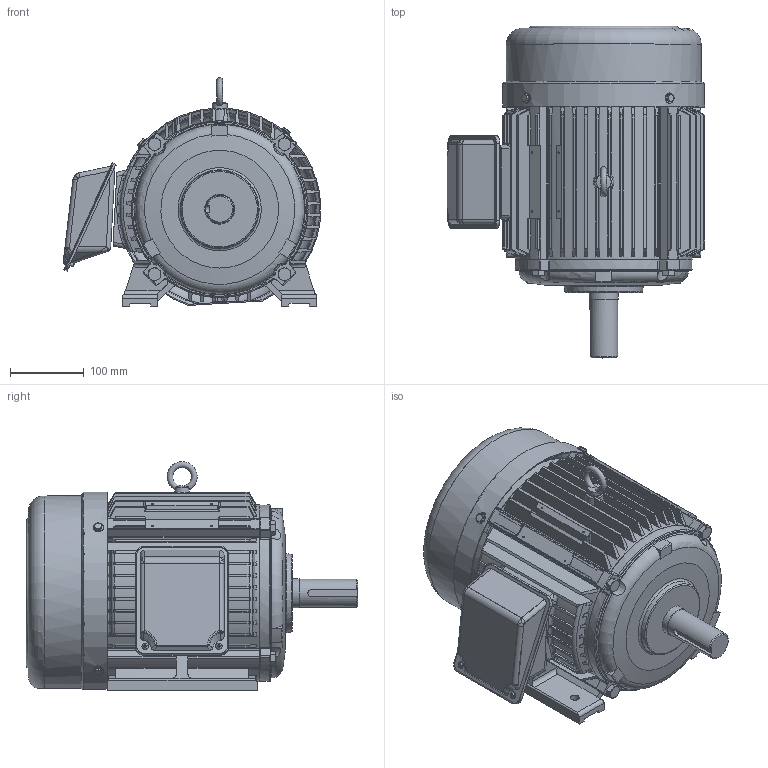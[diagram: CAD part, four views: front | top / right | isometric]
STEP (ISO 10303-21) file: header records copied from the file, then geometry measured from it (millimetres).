
FILE_DESCRIPTION(/* description */ ('Unknown'),/* implementation_level */ '2;1');
FILE_NAME(/* name */ '1-SMA-39272_외형도(228DIA)',/* time_stamp */ '2026-07-24T08:27:30+09:00',/* author */ ('Unknown'),/* organization */ ('Unknown'),/* preprocessor_version */ 'ST-DEVELOPER v16',/* originating_system */ 'DEX',/* authorisation */ $);
FILE_SCHEMA (('AUTOMOTIVE_DESIGN {1 0 10303 214 3 1 1}'));
Length unit declared in the file: millimetre
Products named in the file (15): 1-SMA-39272_寇屈档(228DI; 2-SMA-39266_FRAME(228DIA); 3-SMA-39268_¾Õºê¶óÄÏ(228DÅ¾|·Ï(; 4-SMA-39269_µÚºê¶óÄÏ(228D´¾|·Ï(; 5-SMA-39270_SHAFT(228DIA); 6-SMA-31243_FAN(194DIA); 7-SMA-30111_FAN COVER(228DIA); 8-SMA-33050_T-BOX(鼻)(205~260DIA)SF/CSYS; 9-SMA-33051_T-BOX(ж)(205~260DIA); I獐お M10x1.5x18; 幫陝獐お M10x1.5x; 幫陝Ы楠雖 M6x1; 菅斬 褊濠 M5x0.8x; 6306ZZ; 6308ZZ
Assembly tree (25 placements, depth 2):
  1-SMA-39272_寇屈档(228DI
    2-SMA-39266_FRAME(228DIA)
    3-SMA-39268_¾Õºê¶óÄÏ(228DÅ¾|·Ï(
    4-SMA-39269_µÚºê¶óÄÏ(228D´¾|·Ï(
    5-SMA-39270_SHAFT(228DIA)
    6-SMA-31243_FAN(194DIA)
    7-SMA-30111_FAN COVER(228DIA)
    8-SMA-33050_T-BOX(鼻)(205~260DIA)SF/CSYS
    9-SMA-33051_T-BOX(ж)(205~260DIA)
    I獐お M10x1.5x18
    幫陝獐お M10x1.5x  x8
    幫陝Ы楠雖 M6x1  x4
    菅斬 褊濠 M5x0.8x  x2
    6306ZZ
    6308ZZ
Bounding box: 349.98 x 450.99 x 310.77 mm (x, y, z)
Volume: 4153675.4 mm3; surface area: 1515555.2 mm2
Topology: 47 solids, 47 shells, 2047 faces, 5332 edges, 3392 vertices
Faces by surface type: plane 640, cylinder 596, cone 392, torus 204, bspline 179, sphere 36
Full cylindrical faces by diameter (mm): 2.2 x4, 4.134 x2, 4.917 x6, 5 x2, 6 x10, 7 x2, 8.376 x18, 10 x18, 12 x12, 14 x4, 20 x1, 22 x1, 28 x1, 29.8 x1, 30 x2, 30.6 x1, 35 x1, 38 x1, 39.8 x1, 40 x5, 40.6 x1, 42 x2, 42.4 x2, 43.1 x1, 45 x1, 54.286 x2, 54.686 x2, 59.6 x2, 60 x2, 72 x2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
Entity records: 83903 total; most frequent: CARTESIAN_POINT 35852, ORIENTED_EDGE 9096, DIRECTION 8397, EDGE_CURVE 4548, AXIS2_PLACEMENT_3D 3515, VERTEX_POINT 3021, FACE_BOUND 2219, EDGE_LOOP 2190
